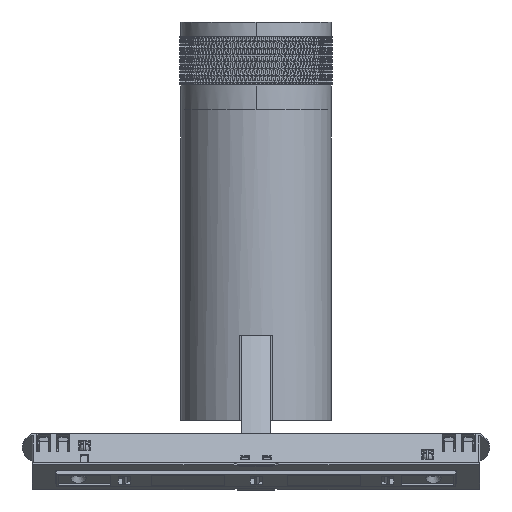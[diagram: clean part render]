
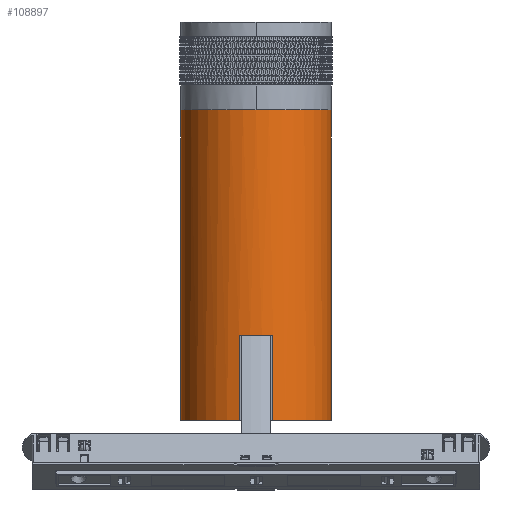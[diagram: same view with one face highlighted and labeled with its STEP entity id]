
A CAD part, front view. The second image highlights one B-rep face of the part: STEP entity #108897.
In plain terms, the highlighted cylindrical face has radius 31 mm (diameter 62 mm), a partial arc.
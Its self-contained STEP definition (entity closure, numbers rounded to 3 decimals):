
#1888 = DIRECTION ( 'NONE',  ( 1., 0., 0. ) ) ;
#13550 = CARTESIAN_POINT ( 'NONE',  ( 0., 0., -64. ) ) ;
#14366 = AXIS2_PLACEMENT_3D ( 'NONE', #130167, #232835, #1888 ) ;
#29849 = EDGE_CURVE ( 'NONE', #271776, #241036, #79247, .T. ) ;
#32012 = DIRECTION ( 'NONE',  ( 0., 0., 1. ) ) ;
#41448 = CIRCLE ( 'NONE', #84587, 31. ) ;
#45639 = DIRECTION ( 'NONE',  ( 0., 0., 1. ) ) ;
#62545 = CARTESIAN_POINT ( 'NONE',  ( 7., -30.199, -64. ) ) ;
#67684 = ORIENTED_EDGE ( 'NONE', *, *, #295040, .T. ) ;
#68797 = EDGE_CURVE ( 'NONE', #333610, #289706, #160212, .T. ) ;
#69329 = CARTESIAN_POINT ( 'NONE',  ( -31., 0., -64. ) ) ;
#73865 = CARTESIAN_POINT ( 'NONE',  ( 0., 0., -29. ) ) ;
#79247 = LINE ( 'NONE', #182044, #148708 ) ;
#82414 = VERTEX_POINT ( 'NONE', #136095 ) ;
#84587 = AXIS2_PLACEMENT_3D ( 'NONE', #73865, #176681, #279318 ) ;
#90374 = AXIS2_PLACEMENT_3D ( 'NONE', #95126, #197872, #300503 ) ;
#95126 = CARTESIAN_POINT ( 'NONE',  ( 0., 0., -64. ) ) ;
#104329 = CIRCLE ( 'NONE', #292496, 31. ) ;
#108897 = ADVANCED_FACE ( 'NONE', ( #141826 ), #244472, .T. ) ;
#110561 = AXIS2_PLACEMENT_3D ( 'NONE', #13550, #116531, #219237 ) ;
#112395 = CARTESIAN_POINT ( 'NONE',  ( -31., 0., -64. ) ) ;
#112815 = EDGE_LOOP ( 'NONE', ( #140917, #67684, #304076, #270034, #124000, #154159, #207471, #217073 ) ) ;
#116531 = DIRECTION ( 'NONE',  ( 0., 0., 1. ) ) ;
#124000 = ORIENTED_EDGE ( 'NONE', *, *, #245450, .T. ) ;
#130167 = CARTESIAN_POINT ( 'NONE',  ( 0., 0., 64. ) ) ;
#136095 = CARTESIAN_POINT ( 'NONE',  ( -31., 0., 64. ) ) ;
#140917 = ORIENTED_EDGE ( 'NONE', *, *, #199685, .F. ) ;
#141826 = FACE_OUTER_BOUND ( 'NONE', #112815, .T. ) ;
#148523 = DIRECTION ( 'NONE',  ( 1., 0., 0. ) ) ;
#148708 = VECTOR ( 'NONE', #284663, 1000. ) ;
#154159 = ORIENTED_EDGE ( 'NONE', *, *, #276294, .T. ) ;
#159818 = CIRCLE ( 'NONE', #14366, 31. ) ;
#160212 = LINE ( 'NONE', #262892, #293576 ) ;
#165389 = DIRECTION ( 'NONE',  ( 0., 0., -1. ) ) ;
#170854 = VERTEX_POINT ( 'NONE', #218486 ) ;
#172144 = DIRECTION ( 'NONE',  ( 0., 0., 1. ) ) ;
#176681 = DIRECTION ( 'NONE',  ( 0., 0., 1. ) ) ;
#182044 = CARTESIAN_POINT ( 'NONE',  ( -7., -30.199, -64. ) ) ;
#197180 = VERTEX_POINT ( 'NONE', #112395 ) ;
#197644 = VECTOR ( 'NONE', #165389, 1000. ) ;
#197872 = DIRECTION ( 'NONE',  ( 0., 0., 1. ) ) ;
#199611 = CARTESIAN_POINT ( 'NONE',  ( -7., -30.199, -29. ) ) ;
#199685 = EDGE_CURVE ( 'NONE', #197180, #82414, #300071, .T. ) ;
#207471 = ORIENTED_EDGE ( 'NONE', *, *, #68797, .T. ) ;
#217073 = ORIENTED_EDGE ( 'NONE', *, *, #297721, .T. ) ;
#218486 = CARTESIAN_POINT ( 'NONE',  ( 7., -30.199, -29. ) ) ;
#219237 = DIRECTION ( 'NONE',  ( 1., 0., 0. ) ) ;
#228673 = EDGE_CURVE ( 'NONE', #241036, #170854, #41448, .T. ) ;
#232835 = DIRECTION ( 'NONE',  ( 0., 0., -1. ) ) ;
#235483 = CIRCLE ( 'NONE', #90374, 31. ) ;
#241036 = VERTEX_POINT ( 'NONE', #199611 ) ;
#244472 = CYLINDRICAL_SURFACE ( 'NONE', #110561, 31. ) ;
#245450 = EDGE_CURVE ( 'NONE', #170854, #299044, #293296, .T. ) ;
#253072 = CARTESIAN_POINT ( 'NONE',  ( 31., 0., -64. ) ) ;
#256658 = CARTESIAN_POINT ( 'NONE',  ( 7., -30.199, -64. ) ) ;
#262892 = CARTESIAN_POINT ( 'NONE',  ( 31., 0., -64. ) ) ;
#269114 = CARTESIAN_POINT ( 'NONE',  ( -7., -30.199, -64. ) ) ;
#270034 = ORIENTED_EDGE ( 'NONE', *, *, #228673, .T. ) ;
#271776 = VERTEX_POINT ( 'NONE', #269114 ) ;
#276294 = EDGE_CURVE ( 'NONE', #299044, #333610, #104329, .T. ) ;
#276419 = CARTESIAN_POINT ( 'NONE',  ( 0., 0., -64. ) ) ;
#279318 = DIRECTION ( 'NONE',  ( 1., 0., 0. ) ) ;
#280483 = VECTOR ( 'NONE', #172144, 1000. ) ;
#284663 = DIRECTION ( 'NONE',  ( 0., 0., 1. ) ) ;
#289706 = VERTEX_POINT ( 'NONE', #312462 ) ;
#292496 = AXIS2_PLACEMENT_3D ( 'NONE', #276419, #45639, #148523 ) ;
#293296 = LINE ( 'NONE', #62545, #197644 ) ;
#293576 = VECTOR ( 'NONE', #32012, 1000. ) ;
#295040 = EDGE_CURVE ( 'NONE', #197180, #271776, #235483, .T. ) ;
#297721 = EDGE_CURVE ( 'NONE', #289706, #82414, #159818, .T. ) ;
#299044 = VERTEX_POINT ( 'NONE', #256658 ) ;
#300071 = LINE ( 'NONE', #69329, #280483 ) ;
#300503 = DIRECTION ( 'NONE',  ( 1., 0., 0. ) ) ;
#304076 = ORIENTED_EDGE ( 'NONE', *, *, #29849, .T. ) ;
#312462 = CARTESIAN_POINT ( 'NONE',  ( 31., 0., 64. ) ) ;
#333610 = VERTEX_POINT ( 'NONE', #253072 ) ;
